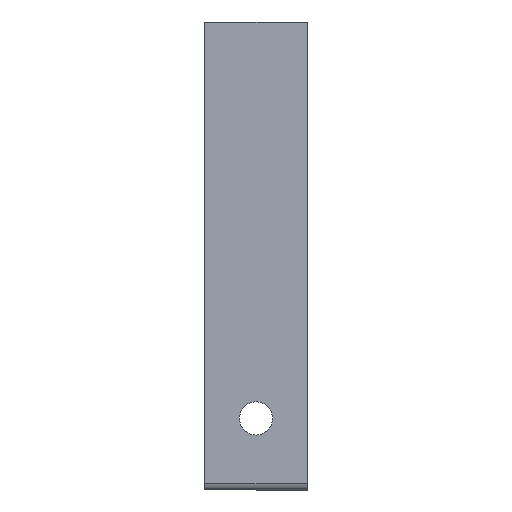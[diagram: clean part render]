
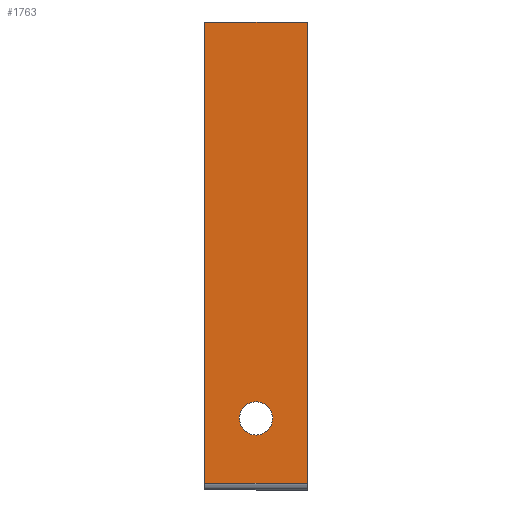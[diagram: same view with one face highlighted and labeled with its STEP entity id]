
A CAD part, front view. The second image highlights one B-rep face of the part: STEP entity #1763.
In plain terms, the highlighted planar face has unit normal (0, -1, 0).
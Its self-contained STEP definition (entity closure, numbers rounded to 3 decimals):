
#25 = CIRCLE ( 'NONE', #1719, 6.5 ) ;
#38 = VERTEX_POINT ( 'NONE', #945 ) ;
#61 = VERTEX_POINT ( 'NONE', #73 ) ;
#73 = CARTESIAN_POINT ( 'NONE',  ( 20., -2., -148.5 ) ) ;
#196 = DIRECTION ( 'NONE',  ( 0., 0., -1. ) ) ;
#220 = ORIENTED_EDGE ( 'NONE', *, *, #1129, .F. ) ;
#274 = CARTESIAN_POINT ( 'NONE',  ( 0., -2., 0. ) ) ;
#280 = LINE ( 'NONE', #1744, #528 ) ;
#283 = CARTESIAN_POINT ( 'NONE',  ( 0., -2., -180.264 ) ) ;
#389 = AXIS2_PLACEMENT_3D ( 'NONE', #2191, #480, #1347 ) ;
#427 = DIRECTION ( 'NONE',  ( 0., 0., 1. ) ) ;
#437 = VERTEX_POINT ( 'NONE', #2163 ) ;
#446 = EDGE_CURVE ( 'NONE', #38, #437, #942, .T. ) ;
#480 = DIRECTION ( 'NONE',  ( 0., 1., 0. ) ) ;
#528 = VECTOR ( 'NONE', #196, 1000. ) ;
#674 = VERTEX_POINT ( 'NONE', #1543 ) ;
#690 = DIRECTION ( 'NONE',  ( 0., -1., 0. ) ) ;
#714 = FACE_OUTER_BOUND ( 'NONE', #2074, .T. ) ;
#735 = EDGE_CURVE ( 'NONE', #1889, #61, #25, .T. ) ;
#762 = VECTOR ( 'NONE', #427, 1000. ) ;
#860 = PLANE ( 'NONE',  #1952 ) ;
#865 = ORIENTED_EDGE ( 'NONE', *, *, #446, .F. ) ;
#901 = EDGE_CURVE ( 'NONE', #437, #674, #280, .T. ) ;
#942 = LINE ( 'NONE', #1160, #1803 ) ;
#945 = CARTESIAN_POINT ( 'NONE',  ( 0., -2., 0. ) ) ;
#1033 = DIRECTION ( 'NONE',  ( 0., 0., -1. ) ) ;
#1046 = LINE ( 'NONE', #283, #1275 ) ;
#1053 = CARTESIAN_POINT ( 'NONE',  ( 20., -2., -161.5 ) ) ;
#1129 = EDGE_CURVE ( 'NONE', #1765, #38, #1545, .T. ) ;
#1160 = CARTESIAN_POINT ( 'NONE',  ( 0., -2., 0. ) ) ;
#1234 = EDGE_CURVE ( 'NONE', #61, #1889, #1785, .T. ) ;
#1272 = EDGE_LOOP ( 'NONE', ( #1996, #1970 ) ) ;
#1275 = VECTOR ( 'NONE', #1836, 1000. ) ;
#1277 = EDGE_CURVE ( 'NONE', #1765, #674, #1046, .T. ) ;
#1347 = DIRECTION ( 'NONE',  ( 0., 0., 1. ) ) ;
#1420 = CARTESIAN_POINT ( 'NONE',  ( 20., -2., -155. ) ) ;
#1510 = CARTESIAN_POINT ( 'NONE',  ( 0., -2., -180.264 ) ) ;
#1543 = CARTESIAN_POINT ( 'NONE',  ( 40., -2., -180.264 ) ) ;
#1545 = LINE ( 'NONE', #274, #762 ) ;
#1649 = DIRECTION ( 'NONE',  ( 1., 0., 0. ) ) ;
#1693 = CARTESIAN_POINT ( 'NONE',  ( 0., -2., 0. ) ) ;
#1719 = AXIS2_PLACEMENT_3D ( 'NONE', #1420, #2097, #1758 ) ;
#1744 = CARTESIAN_POINT ( 'NONE',  ( 40., -2., 0. ) ) ;
#1758 = DIRECTION ( 'NONE',  ( 0., 0., 1. ) ) ;
#1763 = ADVANCED_FACE ( 'NONE', ( #1816, #714 ), #860, .T. ) ;
#1765 = VERTEX_POINT ( 'NONE', #1510 ) ;
#1785 = CIRCLE ( 'NONE', #389, 6.5 ) ;
#1803 = VECTOR ( 'NONE', #1649, 1000. ) ;
#1810 = ORIENTED_EDGE ( 'NONE', *, *, #901, .F. ) ;
#1816 = FACE_BOUND ( 'NONE', #1272, .T. ) ;
#1836 = DIRECTION ( 'NONE',  ( 1., 0., 0. ) ) ;
#1889 = VERTEX_POINT ( 'NONE', #1053 ) ;
#1950 = ORIENTED_EDGE ( 'NONE', *, *, #1277, .T. ) ;
#1952 = AXIS2_PLACEMENT_3D ( 'NONE', #1693, #690, #1033 ) ;
#1970 = ORIENTED_EDGE ( 'NONE', *, *, #735, .T. ) ;
#1996 = ORIENTED_EDGE ( 'NONE', *, *, #1234, .T. ) ;
#2074 = EDGE_LOOP ( 'NONE', ( #220, #1950, #1810, #865 ) ) ;
#2097 = DIRECTION ( 'NONE',  ( 0., 1., 0. ) ) ;
#2163 = CARTESIAN_POINT ( 'NONE',  ( 40., -2., 0. ) ) ;
#2191 = CARTESIAN_POINT ( 'NONE',  ( 20., -2., -155. ) ) ;
